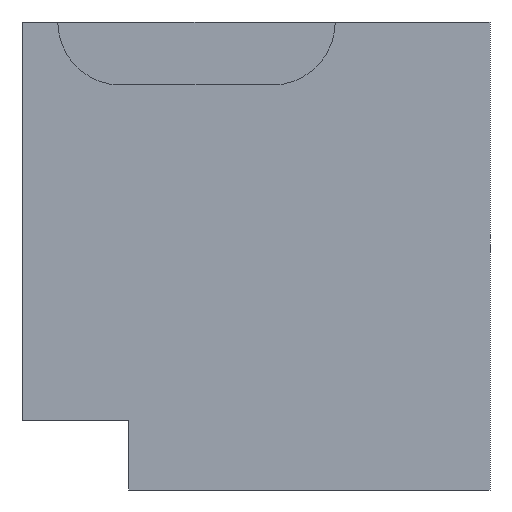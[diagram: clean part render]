
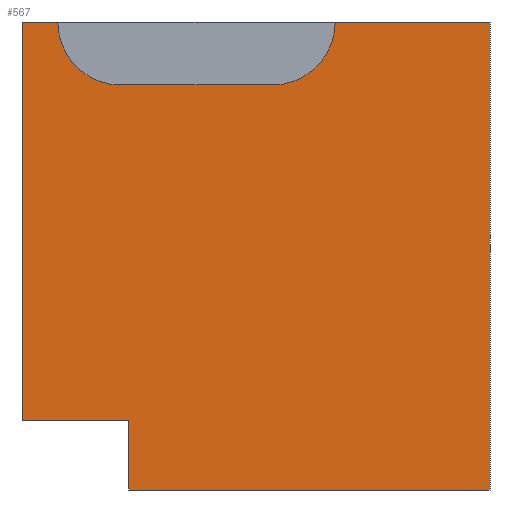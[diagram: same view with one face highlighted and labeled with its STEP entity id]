
A CAD part, front view. The second image highlights one B-rep face of the part: STEP entity #567.
In plain terms, the highlighted planar face has unit normal (0, -1, 0).
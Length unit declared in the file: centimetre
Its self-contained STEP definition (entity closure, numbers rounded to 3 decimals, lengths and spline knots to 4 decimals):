
#2 = VERTEX_POINT ( 'NONE', #445 ) ;
#4 = ORIENTED_EDGE ( 'NONE', *, *, #57, .F. ) ;
#11 = VECTOR ( 'NONE', #69, 100. ) ;
#18 = LINE ( 'NONE', #389, #11 ) ;
#29 = CARTESIAN_POINT ( 'NONE',  ( 1000., 0., 0. ) ) ;
#38 = LINE ( 'NONE', #496, #328 ) ;
#42 = VERTEX_POINT ( 'NONE', #447 ) ;
#50 = DIRECTION ( 'NONE',  ( 0., 0., 1. ) ) ;
#57 = EDGE_CURVE ( 'NONE', #279, #42, #440, .T. ) ;
#63 = DIRECTION ( 'NONE',  ( 0., 0., -1. ) ) ;
#64 = DIRECTION ( 'NONE',  ( 1., 0., 0. ) ) ;
#69 = DIRECTION ( 'NONE',  ( 0., 0., -1. ) ) ;
#70 = EDGE_CURVE ( 'NONE', #308, #475, #319, .T. ) ;
#71 = DIRECTION ( 'NONE',  ( 0., -1., 0. ) ) ;
#75 = AXIS2_PLACEMENT_3D ( 'NONE', #199, #71, #438 ) ;
#76 = VECTOR ( 'NONE', #212, 100. ) ;
#91 = CIRCLE ( 'NONE', #75, 134.5653 ) ;
#102 = DIRECTION ( 'NONE',  ( 0., 0., -1. ) ) ;
#114 = CARTESIAN_POINT ( 'NONE',  ( 228.4477, 0., 0. ) ) ;
#117 = ORIENTED_EDGE ( 'NONE', *, *, #266, .T. ) ;
#129 = EDGE_CURVE ( 'NONE', #495, #159, #443, .T. ) ;
#130 = EDGE_LOOP ( 'NONE', ( #146, #416, #424, #221, #370, #117, #205, #270, #580, #4 ) ) ;
#139 = AXIS2_PLACEMENT_3D ( 'NONE', #460, #339, #50 ) ;
#146 = ORIENTED_EDGE ( 'NONE', *, *, #381, .F. ) ;
#148 = VECTOR ( 'NONE', #560, 100. ) ;
#159 = VERTEX_POINT ( 'NONE', #29 ) ;
#176 = DIRECTION ( 'NONE',  ( -1., 0., 0. ) ) ;
#189 = VERTEX_POINT ( 'NONE', #400 ) ;
#194 = LINE ( 'NONE', #348, #462 ) ;
#199 = CARTESIAN_POINT ( 'NONE',  ( 210.9995, 0., 1000. ) ) ;
#203 = LINE ( 'NONE', #517, #148 ) ;
#205 = ORIENTED_EDGE ( 'NONE', *, *, #129, .T. ) ;
#209 = AXIS2_PLACEMENT_3D ( 'NONE', #521, #577, #267 ) ;
#212 = DIRECTION ( 'NONE',  ( 1., 0., 0. ) ) ;
#221 = ORIENTED_EDGE ( 'NONE', *, *, #442, .T. ) ;
#246 = CARTESIAN_POINT ( 'NONE',  ( 1000., 0., 1000. ) ) ;
#257 = VECTOR ( 'NONE', #426, 100. ) ;
#266 = EDGE_CURVE ( 'NONE', #308, #495, #194, .T. ) ;
#267 = DIRECTION ( 'NONE',  ( 0., 0., -1. ) ) ;
#270 = ORIENTED_EDGE ( 'NONE', *, *, #403, .F. ) ;
#279 = VERTEX_POINT ( 'NONE', #388 ) ;
#280 = VERTEX_POINT ( 'NONE', #246 ) ;
#282 = FACE_OUTER_BOUND ( 'NONE', #130, .T. ) ;
#291 = LINE ( 'NONE', #468, #257 ) ;
#299 = LINE ( 'NONE', #474, #551 ) ;
#307 = CARTESIAN_POINT ( 'NONE',  ( 76.4343, 0., 1000. ) ) ;
#308 = VERTEX_POINT ( 'NONE', #338 ) ;
#319 = LINE ( 'NONE', #492, #383 ) ;
#323 = EDGE_CURVE ( 'NONE', #42, #280, #291, .T. ) ;
#328 = VECTOR ( 'NONE', #64, 100. ) ;
#338 = CARTESIAN_POINT ( 'NONE',  ( 228.4477, 0., 147.5012 ) ) ;
#339 = DIRECTION ( 'NONE',  ( 0., 1., 0. ) ) ;
#340 = EDGE_CURVE ( 'NONE', #414, #189, #91, .T. ) ;
#348 = CARTESIAN_POINT ( 'NONE',  ( 228.4477, 0., 147.5012 ) ) ;
#370 = ORIENTED_EDGE ( 'NONE', *, *, #70, .F. ) ;
#381 = EDGE_CURVE ( 'NONE', #189, #279, #203, .T. ) ;
#383 = VECTOR ( 'NONE', #176, 100. ) ;
#388 = CARTESIAN_POINT ( 'NONE',  ( 534.7433, 0., 865.4347 ) ) ;
#389 = CARTESIAN_POINT ( 'NONE',  ( 0., 0., 1000. ) ) ;
#400 = CARTESIAN_POINT ( 'NONE',  ( 210.9995, 0., 865.4347 ) ) ;
#403 = EDGE_CURVE ( 'NONE', #280, #159, #299, .T. ) ;
#414 = VERTEX_POINT ( 'NONE', #307 ) ;
#416 = ORIENTED_EDGE ( 'NONE', *, *, #340, .F. ) ;
#424 = ORIENTED_EDGE ( 'NONE', *, *, #544, .F. ) ;
#426 = DIRECTION ( 'NONE',  ( 1., 0., 0. ) ) ;
#438 = DIRECTION ( 'NONE',  ( 0., 0., -1. ) ) ;
#440 = CIRCLE ( 'NONE', #209, 134.5653 ) ;
#442 = EDGE_CURVE ( 'NONE', #2, #475, #18, .T. ) ;
#443 = LINE ( 'NONE', #488, #76 ) ;
#445 = CARTESIAN_POINT ( 'NONE',  ( 0., 0., 1000. ) ) ;
#447 = CARTESIAN_POINT ( 'NONE',  ( 669.3086, 0., 1000. ) ) ;
#460 = CARTESIAN_POINT ( 'NONE',  ( 0., 0., 1000. ) ) ;
#462 = VECTOR ( 'NONE', #63, 100. ) ;
#468 = CARTESIAN_POINT ( 'NONE',  ( 0., 0., 1000. ) ) ;
#474 = CARTESIAN_POINT ( 'NONE',  ( 1000., 0., 1000. ) ) ;
#475 = VERTEX_POINT ( 'NONE', #478 ) ;
#478 = CARTESIAN_POINT ( 'NONE',  ( 0., 0., 147.5012 ) ) ;
#488 = CARTESIAN_POINT ( 'NONE',  ( 0., 0., 0. ) ) ;
#492 = CARTESIAN_POINT ( 'NONE',  ( 228.4477, 0., 147.5012 ) ) ;
#495 = VERTEX_POINT ( 'NONE', #114 ) ;
#496 = CARTESIAN_POINT ( 'NONE',  ( 0., 0., 1000. ) ) ;
#513 = PLANE ( 'NONE',  #139 ) ;
#517 = CARTESIAN_POINT ( 'NONE',  ( 210.9995, 0., 865.4347 ) ) ;
#521 = CARTESIAN_POINT ( 'NONE',  ( 534.7433, 0., 1000. ) ) ;
#544 = EDGE_CURVE ( 'NONE', #2, #414, #38, .T. ) ;
#551 = VECTOR ( 'NONE', #102, 100. ) ;
#560 = DIRECTION ( 'NONE',  ( 1., 0., 0. ) ) ;
#567 = ADVANCED_FACE ( 'NONE', ( #282 ), #513, .F. ) ;
#577 = DIRECTION ( 'NONE',  ( 0., -1., 0. ) ) ;
#580 = ORIENTED_EDGE ( 'NONE', *, *, #323, .F. ) ;
